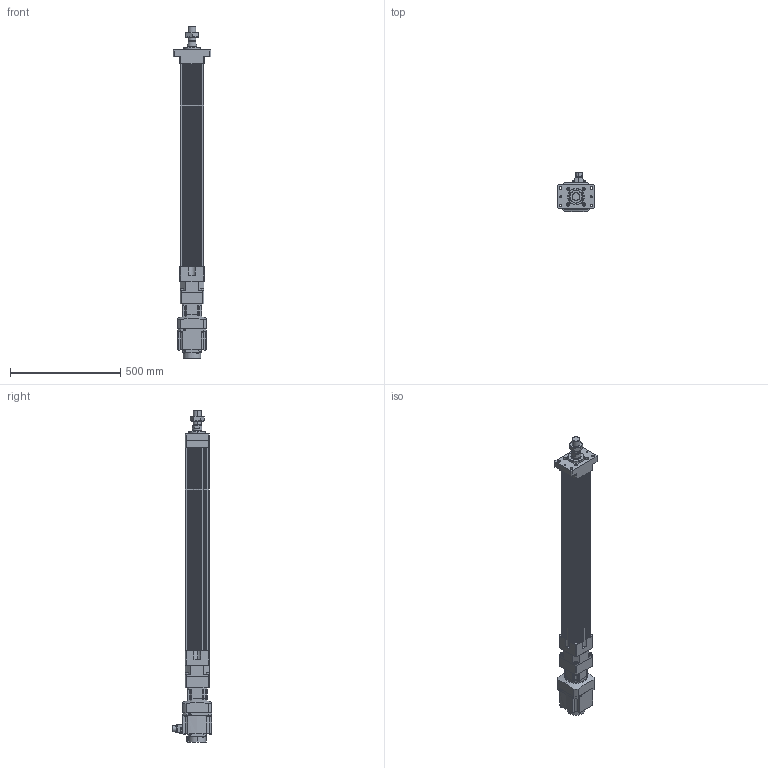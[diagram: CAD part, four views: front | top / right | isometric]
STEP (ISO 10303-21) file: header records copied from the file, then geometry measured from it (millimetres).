
FILE_DESCRIPTION (( 'STEP AP203' ), '1' );
FILE_NAME ('HES110NS(HS)-S750-W010G00-M-FM.STEP', '2023-01-27T07:40:11', ( 'tms' ), ( '' ), 'SwSTEP 2.0', 'SolidWorks 2013', '' );
FILE_SCHEMA (( 'CONFIG_CONTROL_DESIGN' ));
Length unit declared in the file: millimetre
Products named in the file (8): HES110-S750-G090-FM; HES110NS(HS)-S750-W010G00-M-FM; M36X1.5P; AB0901; HG-SR102; HES110 ROD M ST750; AB090-003[HG-SR102B]; P0401301004
Assembly tree (7 placements, depth 3):
  HES110NS(HS)-S750-W010G00-M-FM
    HES110-S750-G090-FM
    HES110 ROD M ST750
    M36X1.5P
    AB090-003[HG-SR102B]
      AB0901
      P0401301004
    HG-SR102
Bounding box: 170 x 177.49 x 1508.5 mm (x, y, z)
Volume: 9771564 mm3; surface area: 1373089.2 mm2
Topology: 4 solids, 15 shells, 1165 faces, 2950 edges, 1921 vertices
Faces by surface type: plane 558, cylinder 523, cone 72, bspline 8, torus 4
Entity records: 37081 total; most frequent: CARTESIAN_POINT 7224, DIRECTION 6367, ORIENTED_EDGE 5848, EDGE_CURVE 2934, AXIS2_PLACEMENT_3D 2335, VERTEX_POINT 1921, VECTOR 1697, LINE 1697
